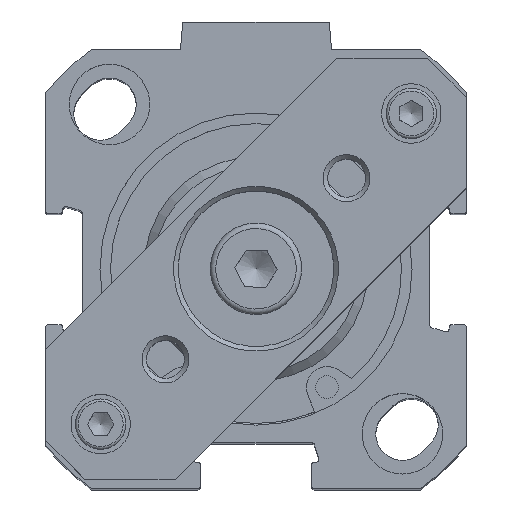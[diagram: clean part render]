
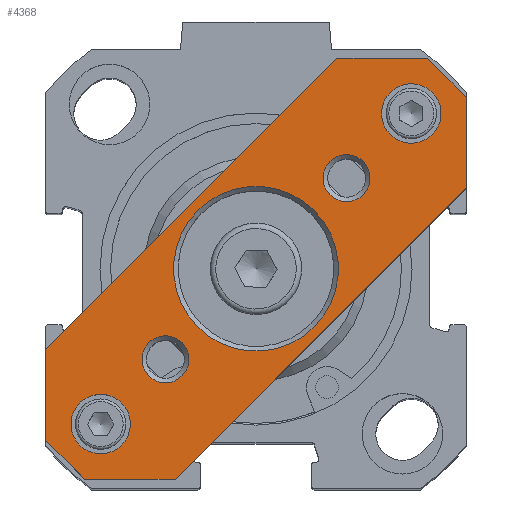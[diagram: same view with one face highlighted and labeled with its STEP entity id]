
A CAD part, top view. The second image highlights one B-rep face of the part: STEP entity #4368.
In plain terms, the highlighted planar face has unit normal (0, 0, 1).
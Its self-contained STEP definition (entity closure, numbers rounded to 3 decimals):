
#219=LINE('',#9134,#477);
#223=LINE('',#9143,#481);
#226=LINE('',#9149,#484);
#229=LINE('',#9155,#487);
#232=LINE('',#9161,#490);
#235=LINE('',#9167,#493);
#238=LINE('',#9173,#496);
#241=LINE('',#9179,#499);
#477=VECTOR('',#7743,1000.);
#481=VECTOR('',#7749,1000.);
#484=VECTOR('',#7754,1000.);
#487=VECTOR('',#7759,1000.);
#490=VECTOR('',#7764,1000.);
#493=VECTOR('',#7769,1000.);
#496=VECTOR('',#7774,1000.);
#499=VECTOR('',#7779,1000.);
#1424=ORIENTED_EDGE('',*,*,#2200,.F.);
#1425=ORIENTED_EDGE('',*,*,#2197,.F.);
#1426=ORIENTED_EDGE('',*,*,#2198,.F.);
#1427=ORIENTED_EDGE('',*,*,#2201,.T.);
#1428=ORIENTED_EDGE('',*,*,#2202,.T.);
#1429=ORIENTED_EDGE('',*,*,#2193,.F.);
#1430=ORIENTED_EDGE('',*,*,#2171,.F.);
#1431=ORIENTED_EDGE('',*,*,#2175,.F.);
#1432=ORIENTED_EDGE('',*,*,#2178,.F.);
#1433=ORIENTED_EDGE('',*,*,#2181,.F.);
#1434=ORIENTED_EDGE('',*,*,#2184,.F.);
#1435=ORIENTED_EDGE('',*,*,#2187,.F.);
#1436=ORIENTED_EDGE('',*,*,#2190,.F.);
#2171=EDGE_CURVE('',#2639,#2640,#219,.T.);
#2175=EDGE_CURVE('',#2643,#2639,#223,.T.);
#2178=EDGE_CURVE('',#2645,#2643,#226,.T.);
#2181=EDGE_CURVE('',#2647,#2645,#229,.T.);
#2184=EDGE_CURVE('',#2649,#2647,#232,.T.);
#2187=EDGE_CURVE('',#2651,#2649,#235,.T.);
#2190=EDGE_CURVE('',#2653,#2651,#238,.T.);
#2193=EDGE_CURVE('',#2640,#2653,#241,.T.);
#2197=EDGE_CURVE('',#2657,#2657,#2980,.T.);
#2198=EDGE_CURVE('',#2658,#2658,#2981,.T.);
#2200=EDGE_CURVE('',#2660,#2660,#2983,.T.);
#2201=EDGE_CURVE('',#2661,#2661,#2984,.T.);
#2202=EDGE_CURVE('',#2662,#2662,#2985,.T.);
#2639=VERTEX_POINT('',#9135);
#2640=VERTEX_POINT('',#9136);
#2643=VERTEX_POINT('',#9144);
#2645=VERTEX_POINT('',#9150);
#2647=VERTEX_POINT('',#9156);
#2649=VERTEX_POINT('',#9162);
#2651=VERTEX_POINT('',#9168);
#2653=VERTEX_POINT('',#9174);
#2657=VERTEX_POINT('',#9188);
#2658=VERTEX_POINT('',#9191);
#2660=VERTEX_POINT('',#9196);
#2661=VERTEX_POINT('',#9198);
#2662=VERTEX_POINT('',#9200);
#2980=CIRCLE('',#6723,9.);
#2981=CIRCLE('',#6725,2.567);
#2983=CIRCLE('',#6728,2.567);
#2984=CIRCLE('',#6729,3.25);
#2985=CIRCLE('',#6730,3.25);
#3342=EDGE_LOOP('',(#1424));
#3343=EDGE_LOOP('',(#1425));
#3344=EDGE_LOOP('',(#1426));
#3345=EDGE_LOOP('',(#1427));
#3346=EDGE_LOOP('',(#1428));
#3347=EDGE_LOOP('',(#1429,#1430,#1431,#1432,#1433,#1434,#1435,#1436));
#3829=FACE_BOUND('',#3342,.T.);
#3830=FACE_BOUND('',#3343,.T.);
#3831=FACE_BOUND('',#3344,.T.);
#3832=FACE_BOUND('',#3345,.T.);
#3833=FACE_BOUND('',#3346,.T.);
#3834=FACE_BOUND('',#3347,.T.);
#4143=PLANE('',#6727);
#4368=ADVANCED_FACE('',(#3829,#3830,#3831,#3832,#3833,#3834),#4143,.T.);
#6723=AXIS2_PLACEMENT_3D('',#9187,#7789,#7790);
#6725=AXIS2_PLACEMENT_3D('',#9190,#7793,#7794);
#6727=AXIS2_PLACEMENT_3D('',#9194,#7797,#7798);
#6728=AXIS2_PLACEMENT_3D('',#9195,#7799,#7800);
#6729=AXIS2_PLACEMENT_3D('',#9197,#7801,#7802);
#6730=AXIS2_PLACEMENT_3D('',#9199,#7803,#7804);
#7743=DIRECTION('',(-0.999,-0.044,0.));
#7749=DIRECTION('',(-0.676,-0.737,0.));
#7754=DIRECTION('',(0.044,-0.999,0.));
#7759=DIRECTION('',(0.737,-0.676,0.));
#7764=DIRECTION('',(0.999,0.044,0.));
#7769=DIRECTION('',(0.676,0.737,0.));
#7774=DIRECTION('',(-0.044,0.999,0.));
#7779=DIRECTION('',(-0.737,0.676,0.));
#7789=DIRECTION('',(0.,0.,1.));
#7790=DIRECTION('',(-0.676,-0.737,0.));
#7793=DIRECTION('',(0.,0.,1.));
#7794=DIRECTION('',(-0.676,-0.737,0.));
#7797=DIRECTION('',(0.,0.,1.));
#7798=DIRECTION('',(0.676,0.737,0.));
#7799=DIRECTION('',(0.,0.,1.));
#7800=DIRECTION('',(-0.676,-0.737,0.));
#7801=DIRECTION('',(0.,0.,-1.));
#7802=DIRECTION('',(0.676,0.737,0.));
#7803=DIRECTION('',(0.,0.,-1.));
#7804=DIRECTION('',(0.676,0.737,0.));
#9134=CARTESIAN_POINT('',(-7.828,-23.345,100.5));
#9135=CARTESIAN_POINT('',(-7.828,-23.345,100.5));
#9136=CARTESIAN_POINT('',(-17.718,-23.776,100.5));
#9143=CARTESIAN_POINT('',(22.574,9.833,100.5));
#9144=CARTESIAN_POINT('',(22.574,9.833,100.5));
#9149=CARTESIAN_POINT('',(22.142,19.723,100.5));
#9150=CARTESIAN_POINT('',(22.142,19.723,100.5));
#9155=CARTESIAN_POINT('',(17.718,23.776,100.5));
#9156=CARTESIAN_POINT('',(17.718,23.776,100.5));
#9161=CARTESIAN_POINT('',(7.828,23.345,100.5));
#9162=CARTESIAN_POINT('',(7.828,23.345,100.5));
#9167=CARTESIAN_POINT('',(-22.574,-9.833,100.5));
#9168=CARTESIAN_POINT('',(-22.574,-9.833,100.5));
#9173=CARTESIAN_POINT('',(-22.142,-19.723,100.5));
#9174=CARTESIAN_POINT('',(-22.142,-19.723,100.5));
#9179=CARTESIAN_POINT('',(-17.718,-23.776,100.5));
#9187=CARTESIAN_POINT('',(0.,0.,100.5));
#9188=CARTESIAN_POINT('',(6.08,6.635,100.5));
#9190=CARTESIAN_POINT('',(9.458,10.322,100.5));
#9191=CARTESIAN_POINT('',(11.193,12.214,100.5));
#9194=CARTESIAN_POINT('',(0.,0.,100.5));
#9195=CARTESIAN_POINT('',(-9.458,-10.322,100.5));
#9196=CARTESIAN_POINT('',(-7.724,-8.429,100.5));
#9197=CARTESIAN_POINT('',(-16.214,-17.695,100.5));
#9198=CARTESIAN_POINT('',(-14.018,-15.299,100.5));
#9199=CARTESIAN_POINT('',(16.214,17.695,100.5));
#9200=CARTESIAN_POINT('',(18.41,20.091,100.5));
